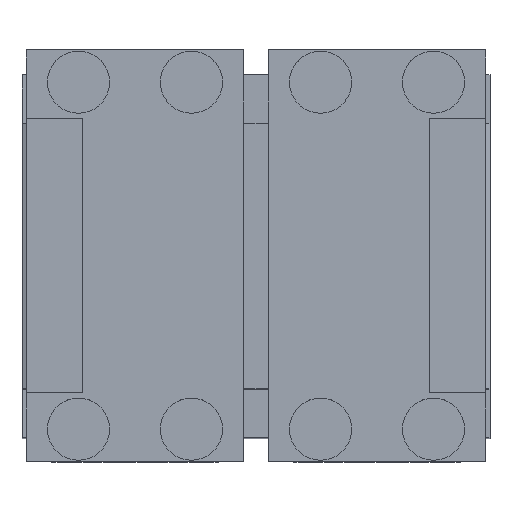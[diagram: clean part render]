
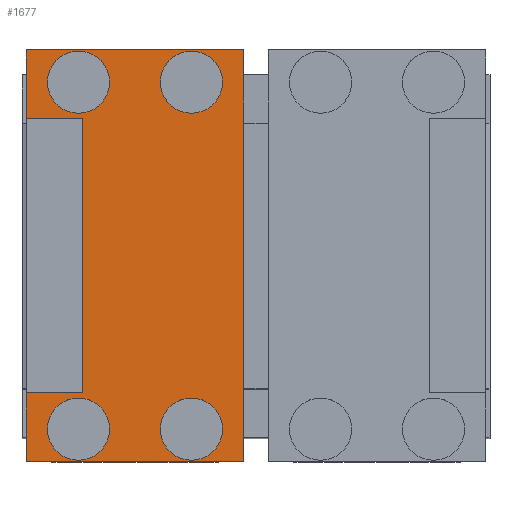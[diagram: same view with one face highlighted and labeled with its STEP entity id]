
A CAD part, top view. The second image highlights one B-rep face of the part: STEP entity #1677.
In plain terms, the highlighted planar face has unit normal (0, 0, 1).
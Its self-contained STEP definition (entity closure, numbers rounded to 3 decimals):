
#18 = ORIENTED_EDGE ( 'NONE', *, *, #3392, .F. ) ;
#81 = EDGE_CURVE ( 'NONE', #585, #5240, #167, .T. ) ;
#167 = CIRCLE ( 'NONE', #3489, 3.85 ) ;
#193 = VERTEX_POINT ( 'NONE', #5623 ) ;
#297 = FACE_BOUND ( 'NONE', #4709, .T. ) ;
#306 = LINE ( 'NONE', #2220, #6248 ) ;
#331 = EDGE_CURVE ( 'NONE', #748, #193, #4114, .T. ) ;
#506 = CARTESIAN_POINT ( 'NONE',  ( -28.5, 25.5, 91.5 ) ) ;
#531 = ORIENTED_EDGE ( 'NONE', *, *, #3920, .T. ) ;
#539 = VERTEX_POINT ( 'NONE', #1474 ) ;
#584 = LINE ( 'NONE', #1565, #3670 ) ;
#585 = VERTEX_POINT ( 'NONE', #2454 ) ;
#593 = VERTEX_POINT ( 'NONE', #1176 ) ;
#605 = CARTESIAN_POINT ( 'NONE',  ( -1.5, 25.5, 91.5 ) ) ;
#630 = ORIENTED_EDGE ( 'NONE', *, *, #1035, .F. ) ;
#748 = VERTEX_POINT ( 'NONE', #3315 ) ;
#760 = CIRCLE ( 'NONE', #1286, 3.85 ) ;
#868 = LINE ( 'NONE', #1818, #5424 ) ;
#873 = CIRCLE ( 'NONE', #979, 3.85 ) ;
#977 = ORIENTED_EDGE ( 'NONE', *, *, #3162, .F. ) ;
#979 = AXIS2_PLACEMENT_3D ( 'NONE', #2688, #4174, #5608 ) ;
#992 = LINE ( 'NONE', #1960, #5932 ) ;
#1032 = CARTESIAN_POINT ( 'NONE',  ( -21.5, -17., 91.5 ) ) ;
#1035 = EDGE_CURVE ( 'NONE', #3514, #5835, #6223, .T. ) ;
#1176 = CARTESIAN_POINT ( 'NONE',  ( -4.15, -21.5, 91.5 ) ) ;
#1255 = EDGE_CURVE ( 'NONE', #3343, #2790, #868, .T. ) ;
#1286 = AXIS2_PLACEMENT_3D ( 'NONE', #6242, #2739, #4755 ) ;
#1291 = AXIS2_PLACEMENT_3D ( 'NONE', #3808, #2769, #5716 ) ;
#1309 = CARTESIAN_POINT ( 'NONE',  ( -8., 21.5, 91.5 ) ) ;
#1349 = LINE ( 'NONE', #2896, #2396 ) ;
#1379 = VECTOR ( 'NONE', #5217, 1000. ) ;
#1472 = DIRECTION ( 'NONE',  ( 1., 0., 0. ) ) ;
#1474 = CARTESIAN_POINT ( 'NONE',  ( -11.85, -21.5, 91.5 ) ) ;
#1482 = CIRCLE ( 'NONE', #3642, 3.85 ) ;
#1565 = CARTESIAN_POINT ( 'NONE',  ( -1.5, -25.5, 91.5 ) ) ;
#1641 = EDGE_CURVE ( 'NONE', #4436, #2001, #5954, .T. ) ;
#1677 = ADVANCED_FACE ( 'NONE', ( #2733, #4750, #297, #1698, #2272 ), #4254, .F. ) ;
#1698 = FACE_BOUND ( 'NONE', #5212, .T. ) ;
#1721 = DIRECTION ( 'NONE',  ( 0., 0., 1. ) ) ;
#1794 = CARTESIAN_POINT ( 'NONE',  ( -1.5, -25.5, 91.5 ) ) ;
#1818 = CARTESIAN_POINT ( 'NONE',  ( -1.5, -25.5, 91.5 ) ) ;
#1954 = VERTEX_POINT ( 'NONE', #2114 ) ;
#1960 = CARTESIAN_POINT ( 'NONE',  ( -28.5, 17., 91.5 ) ) ;
#2001 = VERTEX_POINT ( 'NONE', #6268 ) ;
#2114 = CARTESIAN_POINT ( 'NONE',  ( -28.5, 17., 91.5 ) ) ;
#2220 = CARTESIAN_POINT ( 'NONE',  ( -28.5, -25.5, 91.5 ) ) ;
#2272 = FACE_BOUND ( 'NONE', #4901, .T. ) ;
#2288 = EDGE_CURVE ( 'NONE', #3343, #2786, #584, .T. ) ;
#2293 = EDGE_CURVE ( 'NONE', #2790, #3537, #3569, .T. ) ;
#2322 = CARTESIAN_POINT ( 'NONE',  ( -28.5, -25.5, 91.5 ) ) ;
#2354 = CARTESIAN_POINT ( 'NONE',  ( -8., -21.5, 91.5 ) ) ;
#2388 = ORIENTED_EDGE ( 'NONE', *, *, #4308, .F. ) ;
#2396 = VECTOR ( 'NONE', #3413, 1000. ) ;
#2429 = AXIS2_PLACEMENT_3D ( 'NONE', #1794, #5758, #5658 ) ;
#2454 = CARTESIAN_POINT ( 'NONE',  ( -11.85, 21.5, 91.5 ) ) ;
#2542 = EDGE_LOOP ( 'NONE', ( #18, #531, #630, #3003, #5585, #5458, #6261, #5382 ) ) ;
#2636 = ORIENTED_EDGE ( 'NONE', *, *, #5414, .F. ) ;
#2660 = CARTESIAN_POINT ( 'NONE',  ( -21.5, -17., 91.5 ) ) ;
#2688 = CARTESIAN_POINT ( 'NONE',  ( -22., 21.5, 91.5 ) ) ;
#2733 = FACE_OUTER_BOUND ( 'NONE', #2542, .T. ) ;
#2739 = DIRECTION ( 'NONE',  ( 0., 0., 1. ) ) ;
#2769 = DIRECTION ( 'NONE',  ( 0., 0., 1. ) ) ;
#2786 = VERTEX_POINT ( 'NONE', #4508 ) ;
#2790 = VERTEX_POINT ( 'NONE', #605 ) ;
#2881 = DIRECTION ( 'NONE',  ( 0., 1., 0. ) ) ;
#2893 = ORIENTED_EDGE ( 'NONE', *, *, #331, .F. ) ;
#2896 = CARTESIAN_POINT ( 'NONE',  ( -28.5, -17., 91.5 ) ) ;
#3003 = ORIENTED_EDGE ( 'NONE', *, *, #3830, .F. ) ;
#3013 = CARTESIAN_POINT ( 'NONE',  ( -18.15, -21.5, 91.5 ) ) ;
#3041 = CIRCLE ( 'NONE', #4380, 3.85 ) ;
#3162 = EDGE_CURVE ( 'NONE', #539, #593, #4621, .T. ) ;
#3165 = AXIS2_PLACEMENT_3D ( 'NONE', #5006, #4008, #5989 ) ;
#3269 = ORIENTED_EDGE ( 'NONE', *, *, #81, .F. ) ;
#3284 = DIRECTION ( 'NONE',  ( -1., 0., 0. ) ) ;
#3297 = DIRECTION ( 'NONE',  ( -1., 0., 0. ) ) ;
#3309 = EDGE_CURVE ( 'NONE', #2786, #5095, #306, .T. ) ;
#3315 = CARTESIAN_POINT ( 'NONE',  ( -25.85, 21.5, 91.5 ) ) ;
#3323 = EDGE_CURVE ( 'NONE', #593, #539, #3041, .T. ) ;
#3343 = VERTEX_POINT ( 'NONE', #3393 ) ;
#3392 = EDGE_CURVE ( 'NONE', #1954, #3537, #3910, .T. ) ;
#3393 = CARTESIAN_POINT ( 'NONE',  ( -1.5, -25.5, 91.5 ) ) ;
#3413 = DIRECTION ( 'NONE',  ( 1., 0., 0. ) ) ;
#3437 = ORIENTED_EDGE ( 'NONE', *, *, #1641, .F. ) ;
#3482 = EDGE_LOOP ( 'NONE', ( #977, #5230 ) ) ;
#3489 = AXIS2_PLACEMENT_3D ( 'NONE', #5588, #1721, #5155 ) ;
#3514 = VERTEX_POINT ( 'NONE', #1032 ) ;
#3534 = CARTESIAN_POINT ( 'NONE',  ( -1.5, 25.5, 91.5 ) ) ;
#3537 = VERTEX_POINT ( 'NONE', #506 ) ;
#3569 = LINE ( 'NONE', #3534, #4408 ) ;
#3642 = AXIS2_PLACEMENT_3D ( 'NONE', #1309, #5933, #3284 ) ;
#3670 = VECTOR ( 'NONE', #5557, 1000. ) ;
#3808 = CARTESIAN_POINT ( 'NONE',  ( -22., -21.5, 91.5 ) ) ;
#3830 = EDGE_CURVE ( 'NONE', #5095, #3514, #1349, .T. ) ;
#3875 = DIRECTION ( 'NONE',  ( -1., 0., 0. ) ) ;
#3904 = AXIS2_PLACEMENT_3D ( 'NONE', #6342, #4302, #3875 ) ;
#3910 = LINE ( 'NONE', #2322, #6042 ) ;
#3920 = EDGE_CURVE ( 'NONE', #1954, #5835, #992, .T. ) ;
#4008 = DIRECTION ( 'NONE',  ( 0., 0., 1. ) ) ;
#4114 = CIRCLE ( 'NONE', #3904, 3.85 ) ;
#4174 = DIRECTION ( 'NONE',  ( 0., 0., 1. ) ) ;
#4254 = PLANE ( 'NONE',  #2429 ) ;
#4302 = DIRECTION ( 'NONE',  ( 0., 0., 1. ) ) ;
#4308 = EDGE_CURVE ( 'NONE', #5240, #585, #1482, .T. ) ;
#4380 = AXIS2_PLACEMENT_3D ( 'NONE', #2354, #6216, #3297 ) ;
#4408 = VECTOR ( 'NONE', #5087, 1000. ) ;
#4436 = VERTEX_POINT ( 'NONE', #3013 ) ;
#4508 = CARTESIAN_POINT ( 'NONE',  ( -28.5, -25.5, 91.5 ) ) ;
#4621 = CIRCLE ( 'NONE', #3165, 3.85 ) ;
#4709 = EDGE_LOOP ( 'NONE', ( #2893, #2636 ) ) ;
#4750 = FACE_BOUND ( 'NONE', #3482, .T. ) ;
#4755 = DIRECTION ( 'NONE',  ( -1., 0., 0. ) ) ;
#4901 = EDGE_LOOP ( 'NONE', ( #5915, #3437 ) ) ;
#4950 = CARTESIAN_POINT ( 'NONE',  ( -28.5, -17., 91.5 ) ) ;
#5006 = CARTESIAN_POINT ( 'NONE',  ( -8., -21.5, 91.5 ) ) ;
#5087 = DIRECTION ( 'NONE',  ( -1., 0., 0. ) ) ;
#5095 = VERTEX_POINT ( 'NONE', #4950 ) ;
#5155 = DIRECTION ( 'NONE',  ( -1., 0., 0. ) ) ;
#5212 = EDGE_LOOP ( 'NONE', ( #3269, #2388 ) ) ;
#5217 = DIRECTION ( 'NONE',  ( 0., 1., 0. ) ) ;
#5230 = ORIENTED_EDGE ( 'NONE', *, *, #3323, .F. ) ;
#5240 = VERTEX_POINT ( 'NONE', #5634 ) ;
#5278 = DIRECTION ( 'NONE',  ( 0., 1., 0. ) ) ;
#5382 = ORIENTED_EDGE ( 'NONE', *, *, #2293, .T. ) ;
#5414 = EDGE_CURVE ( 'NONE', #193, #748, #873, .T. ) ;
#5424 = VECTOR ( 'NONE', #2881, 1000. ) ;
#5458 = ORIENTED_EDGE ( 'NONE', *, *, #2288, .F. ) ;
#5550 = CARTESIAN_POINT ( 'NONE',  ( -21.5, 17., 91.5 ) ) ;
#5557 = DIRECTION ( 'NONE',  ( -1., 0., 0. ) ) ;
#5585 = ORIENTED_EDGE ( 'NONE', *, *, #3309, .F. ) ;
#5588 = CARTESIAN_POINT ( 'NONE',  ( -8., 21.5, 91.5 ) ) ;
#5608 = DIRECTION ( 'NONE',  ( -1., 0., 0. ) ) ;
#5623 = CARTESIAN_POINT ( 'NONE',  ( -18.15, 21.5, 91.5 ) ) ;
#5634 = CARTESIAN_POINT ( 'NONE',  ( -4.15, 21.5, 91.5 ) ) ;
#5658 = DIRECTION ( 'NONE',  ( 0., 1., 0. ) ) ;
#5716 = DIRECTION ( 'NONE',  ( -1., 0., 0. ) ) ;
#5758 = DIRECTION ( 'NONE',  ( 0., 0., -1. ) ) ;
#5835 = VERTEX_POINT ( 'NONE', #5550 ) ;
#5915 = ORIENTED_EDGE ( 'NONE', *, *, #6421, .F. ) ;
#5932 = VECTOR ( 'NONE', #1472, 1000. ) ;
#5933 = DIRECTION ( 'NONE',  ( 0., 0., 1. ) ) ;
#5954 = CIRCLE ( 'NONE', #1291, 3.85 ) ;
#5989 = DIRECTION ( 'NONE',  ( -1., 0., 0. ) ) ;
#6042 = VECTOR ( 'NONE', #6318, 1000. ) ;
#6216 = DIRECTION ( 'NONE',  ( 0., 0., 1. ) ) ;
#6223 = LINE ( 'NONE', #2660, #1379 ) ;
#6242 = CARTESIAN_POINT ( 'NONE',  ( -22., -21.5, 91.5 ) ) ;
#6248 = VECTOR ( 'NONE', #5278, 1000. ) ;
#6261 = ORIENTED_EDGE ( 'NONE', *, *, #1255, .T. ) ;
#6268 = CARTESIAN_POINT ( 'NONE',  ( -25.85, -21.5, 91.5 ) ) ;
#6318 = DIRECTION ( 'NONE',  ( 0., 1., 0. ) ) ;
#6342 = CARTESIAN_POINT ( 'NONE',  ( -22., 21.5, 91.5 ) ) ;
#6421 = EDGE_CURVE ( 'NONE', #2001, #4436, #760, .T. ) ;
